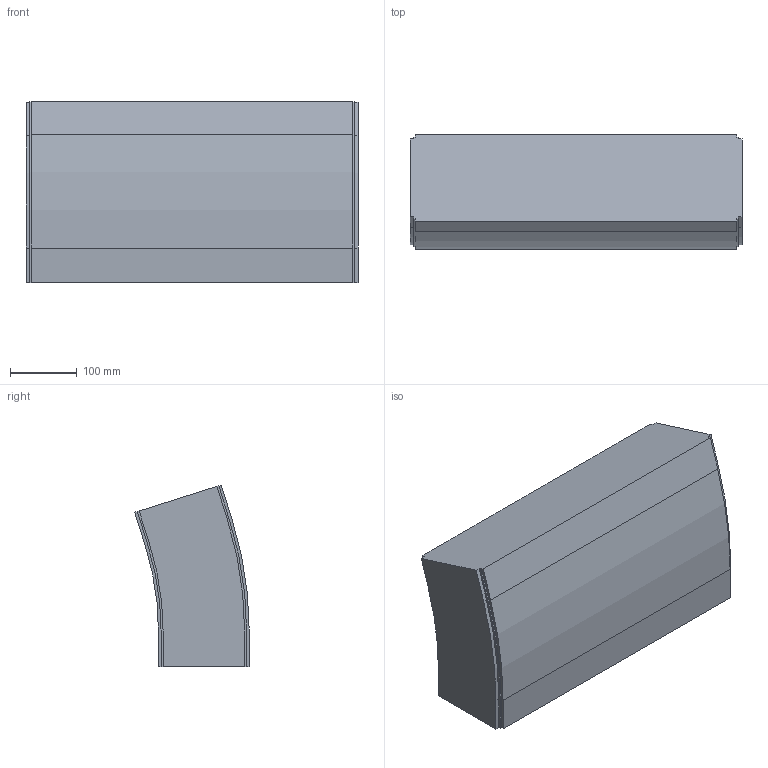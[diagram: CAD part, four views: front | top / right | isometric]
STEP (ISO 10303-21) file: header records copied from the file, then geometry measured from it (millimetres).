
FILE_DESCRIPTION (( 'STEP AP214' ), '1' );
FILE_NAME ('FS-MTC2-150-INOX verticaalbocht.500 17,5°.STEP', '2017-02-08T12:42:22', ( '' ), ( '' ), 'SwSTEP 2.0', 'SolidWorks 2016', '' );
FILE_SCHEMA (( 'AUTOMOTIVE_DESIGN' ));
Length unit declared in the file: millimetre
Products named in the file (1): FS-MTC2-150-INOX verticaalbocht.500 17,5°
Bounding box: 499 x 172.27 x 273.45 mm (x, y, z)
Volume: 17501591.9 mm3; surface area: 463378 mm2
Topology: 1 solids, 1 shells, 42 faces, 120 edges, 80 vertices
Faces by surface type: plane 32, cylinder 10
Entity records: 1398 total; most frequent: CARTESIAN_POINT 243, ORIENTED_EDGE 240, DIRECTION 226, EDGE_CURVE 120, LINE 100, VECTOR 100, VERTEX_POINT 80, AXIS2_PLACEMENT_3D 63
